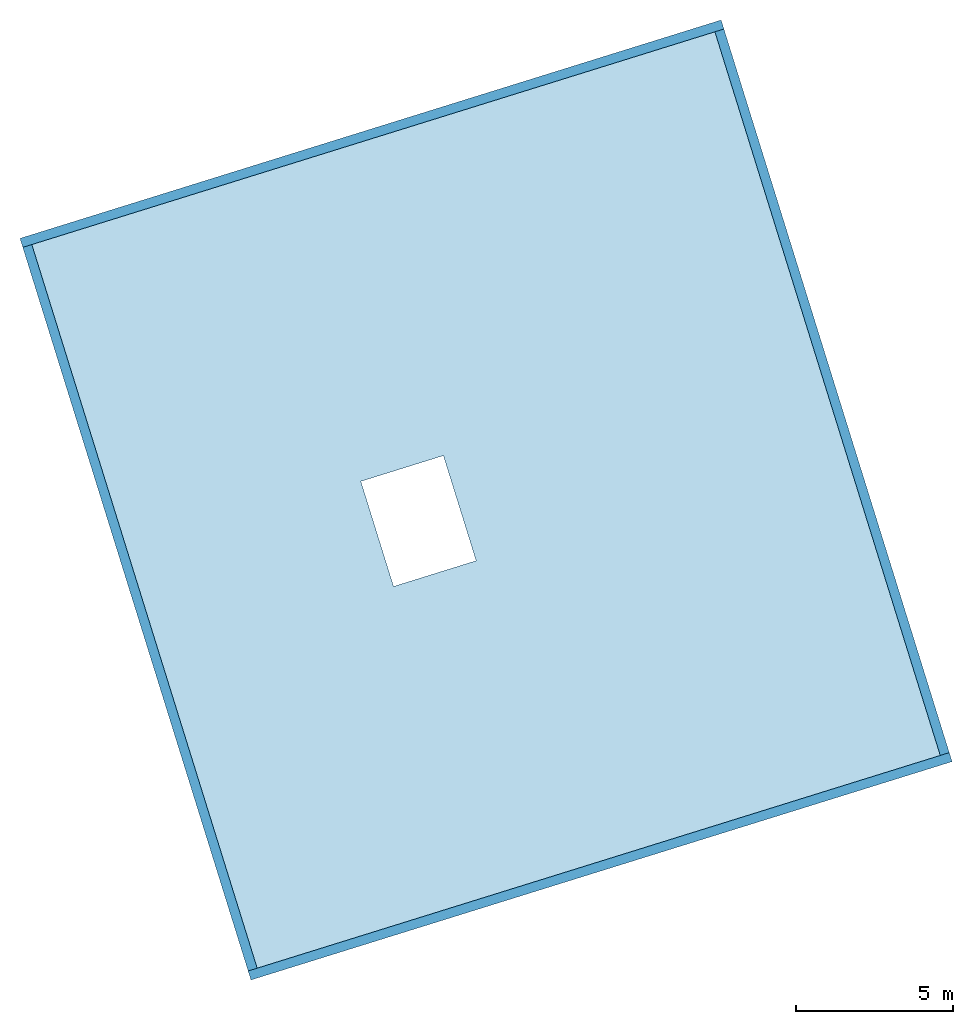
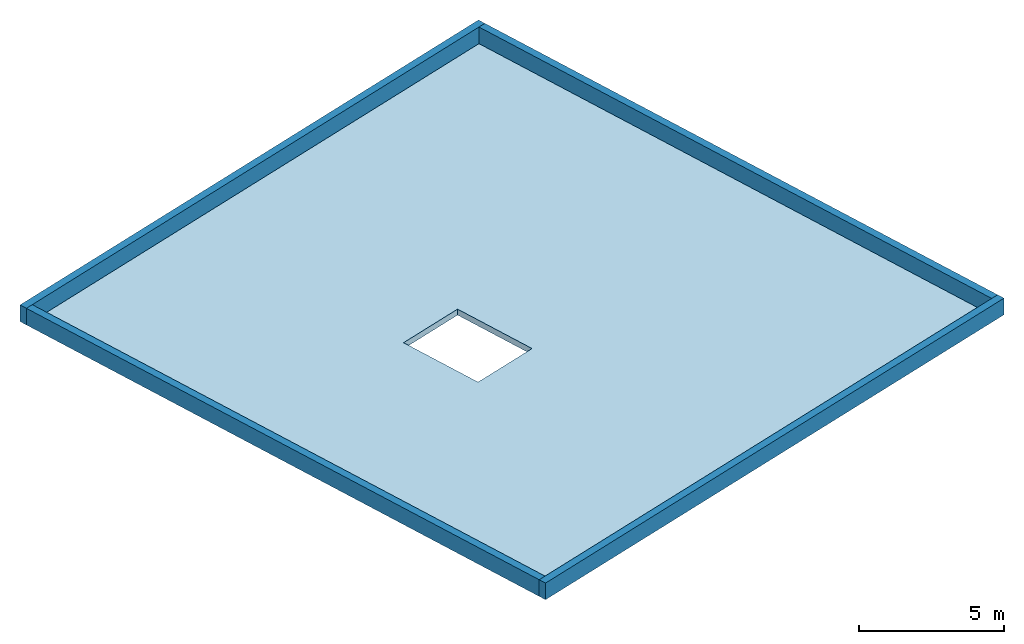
# One storey: 4 walls, 1 slab, 1 opening.
"""IFC4 building model written with IfcOpenShell, lengths in metres."""

from ifc_helpers import new_model, entity, si_unit, converted_unit, direction, frame, origin, place, context, subcontext, project, spatial, indexed_curve, outline, extrude, material, type_object, element, save


model = new_model("IFC4")

# Units and contexts
model_context = context("Model", 3, precision=1e-05, world=origin(), true_north=direction((6.12323399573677e-17, 1.0)))
body_context = subcontext(model_context, "Body", "Model", "MODEL_VIEW")
ifc_project = project(units=[si_unit("LENGTHUNIT", "METRE"), si_unit("AREAUNIT", "SQUARE_METRE"), si_unit("VOLUMEUNIT", "CUBIC_METRE"), converted_unit("PLANEANGLEUNIT", "DEGREE", entity("IfcPlaneAngleMeasure", 0.0174532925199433), si_unit("PLANEANGLEUNIT", "RADIAN"), dimensions=[0, 0, 0, 0, 0, 0, 0])], contexts=[model_context])

# Site, building, storey
site_placement = place(None, frame((13.1347999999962, 11.9886000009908, 0.0), z_axis=(0.0, 0.0, 1.0), x_axis=(0.954770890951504, 0.297342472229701, 0.0)))
site = spatial("IfcSite", under=ifc_project, at=site_placement, Name="Schiehaven", CompositionType="ELEMENT")
building_placement = place(site_placement, origin())
building = spatial("IfcBuilding", under=site, at=building_placement, Name="VORM huis", CompositionType="ELEMENT")
storey_placement = place(building_placement, frame((0.0, 0.0, 27.9)))
storey = spatial("IfcBuildingStorey", under=building, at=storey_placement, Name="09 negende verdieping", CompositionType="ELEMENT", Elevation=27.9)

# Slab, opening
ifc_material_1 = material(Name="beton_gewapend_ihw", Category="Miscellaneous")
slab_type = type_object("IfcSlabType", Name="Floor:28_FL_skelet_dakvloer 250mm", PredefinedType="ROOF", material=ifc_material_1)
slab_placement = place(storey_placement, origin())
slab = element("IfcSlab", 1, at=slab_placement, inside=storey, type_object=slab_type, material=ifc_material_1, Name="Dakvloer", ObjectType="Vloer", PredefinedType="ROOF", context=body_context, shape_type="SweptSolid", body=[
    extrude(outline(indexed_curve([(-12.05, -11.375), (12.05, -11.375), (12.05, 11.375), (-12.05, 11.375), (-12.05, -11.375)], self_intersect=False), holes=[indexed_curve([(-1.75000000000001, -3.62500000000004), (-1.75000000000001, -0.875000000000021), (1.74999999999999, -0.875000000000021), (1.74999999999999, -3.62500000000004), (-1.75000000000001, -3.62500000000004)], self_intersect=False)]), frame((16.2500000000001, 17.05, -0.249999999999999), z_axis=(0.0, 0.0, 1.0), x_axis=(0.0, -1.0, 0.0)), (0.0, 0.0, 1.0), 0.249999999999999),
])
opening_placement = place(slab_placement, origin())
element("IfcOpeningElement", 2, at=opening_placement, cuts=slab, Name="Dakvloer", PredefinedType="OPENING", context=body_context, shape_type="SweptSolid", body=[
    extrude(outline(indexed_curve([(-1.74999999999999, -1.37500000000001), (1.75, -1.37500000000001), (1.75, 1.37500000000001), (-1.75, 1.37500000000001), (-1.74999999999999, -1.37500000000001)], self_intersect=False)), frame((14.0, 17.05, -0.249999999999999), z_axis=(0.0, 0.0, 1.0), x_axis=(0.0, -1.0, 0.0)), (0.0, 0.0, 1.0), 0.249999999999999),
])

# Walls
ifc_material_2 = material(Name="ntb_ntb_ntb", Category="Miscellaneous")
wall_type = type_object("IfcWallType", Name="Basic Wall: 300mm_gen", PredefinedType="STANDARD")
wall_1_placement = place(storey_placement, frame((4.72500000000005, 5.0, 0.0), z_axis=(0.0, 0.0, 1.0), x_axis=(0.0, 1.0, 0.0)))
element("IfcWall", 3, at=wall_1_placement, inside=storey, type_object=wall_type, material=ifc_material_2, Name="Gevelwand", ObjectType="Wand", PredefinedType="NOTDEFINED", context=body_context, shape_type="SweptSolid", body=[
    extrude(outline(indexed_curve([(24.1, 0.15), (-3.08086889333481e-16, 0.15), (-7.74780239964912e-16, -0.15), (24.1, -0.15), (24.1, 0.15)], self_intersect=False)), origin(), (0.0, 0.0, 1.0), 0.699999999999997),
])
wall_2_placement = place(storey_placement, frame((27.9250000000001, 4.85000000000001, 0.0), z_axis=(0.0, 0.0, 1.0), x_axis=(-1.0, 0.0, 0.0)))
element("IfcWall", 4, at=wall_2_placement, inside=storey, type_object=wall_type, material=ifc_material_2, Name="Gevelwand", ObjectType="Wand", PredefinedType="NOTDEFINED", context=body_context, shape_type="SweptSolid", body=[
    extrude(outline(indexed_curve([(23.35, 0.15), (-3.08086889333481e-16, 0.15), (3.08086889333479e-16, -0.149999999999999), (23.35, -0.15), (23.35, 0.15)], self_intersect=False)), origin(), (0.0, 0.0, 1.0), 0.699999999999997),
])
wall_3_placement = place(storey_placement, frame((27.7750000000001, 29.1, 0.0), z_axis=(0.0, 0.0, 1.0), x_axis=(0.0, -1.0, 0.0)))
element("IfcWall", 5, at=wall_3_placement, inside=storey, type_object=wall_type, material=ifc_material_2, Name="Gevelwand", ObjectType="Wand", PredefinedType="NOTDEFINED", context=body_context, shape_type="SweptSolid", body=[
    extrude(outline(indexed_curve([(24.1, 0.15), (-2.94772949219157e-16, 0.150000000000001), (2.94772949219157e-16, -0.150000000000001), (24.1, -0.150000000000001), (24.1, 0.15)], self_intersect=False)), origin(), (0.0, 0.0, 1.0), 0.699999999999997),
])
wall_4_placement = place(storey_placement, frame((4.5750000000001, 29.25, 0.0)))
element("IfcWall", 6, at=wall_4_placement, inside=storey, type_object=wall_type, material=ifc_material_2, Name="Gevelwand", ObjectType="Wand", PredefinedType="NOTDEFINED", context=body_context, shape_type="SweptSolid", body=[
    extrude(outline(indexed_curve([(23.35, 0.150000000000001), (2.33346675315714e-16, 0.150000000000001), (-2.33346675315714e-16, -0.150000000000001), (23.35, -0.15), (23.35, 0.150000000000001)], self_intersect=False)), origin(), (0.0, 0.0, 1.0), 0.699999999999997),
])

save(model, "model.ifc")
